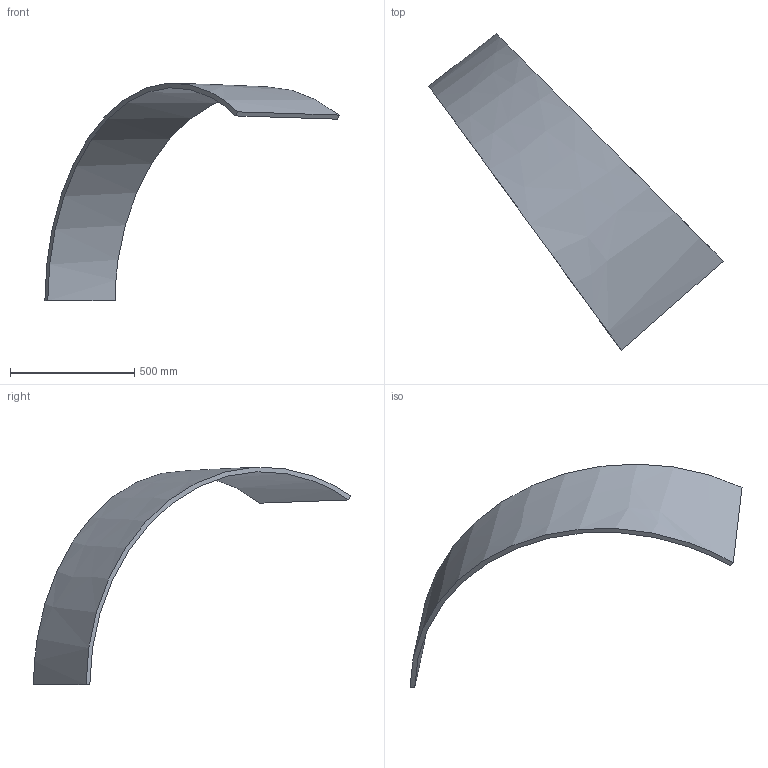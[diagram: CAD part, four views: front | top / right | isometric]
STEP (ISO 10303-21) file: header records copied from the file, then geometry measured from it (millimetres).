
FILE_DESCRIPTION (( 'STEP AP214' ), '1' );
FILE_NAME ('Section 9-C.STEP', '2025-01-09T19:43:29', ( '' ), ( '' ), 'SwSTEP 2.0', 'SolidWorks 2024', '' );
FILE_SCHEMA (( 'AUTOMOTIVE_DESIGN' ));
Length unit declared in the file: inch
Products named in the file (1): Section 9-C
Bounding box: 1186.12 x 1277.86 x 876.75 mm (x, y, z)
Volume: 14504517 mm3; surface area: 1608247.6 mm2
Topology: 1 solids, 1 shells, 6 faces, 12 edges, 8 vertices
Faces by surface type: bspline 6
Entity records: 315 total; most frequent: CARTESIAN_POINT 201, ORIENTED_EDGE 24, EDGE_CURVE 12, B_SPLINE_CURVE_WITH_KNOTS 12, VERTEX_POINT 8, ADVANCED_FACE 6, FACE_OUTER_BOUND 6, B_SPLINE_SURFACE_WITH_KNOTS 6
